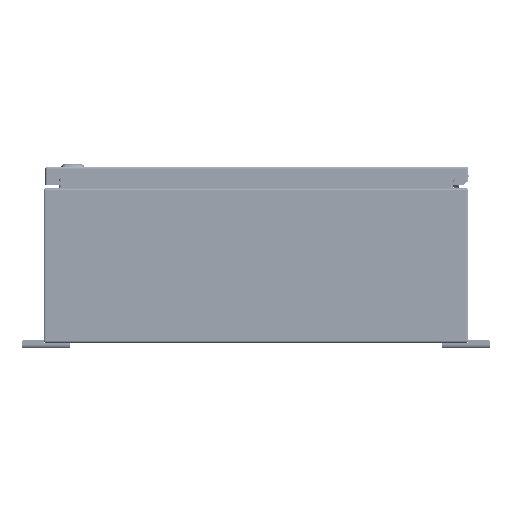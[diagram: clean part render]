
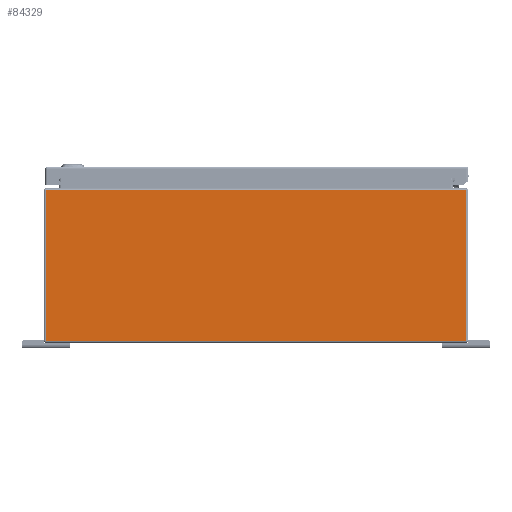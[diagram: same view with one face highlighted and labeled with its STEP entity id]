
A CAD part, left-side view. The second image highlights one B-rep face of the part: STEP entity #84329.
In plain terms, the highlighted planar face has unit normal (-1, 0, 0).
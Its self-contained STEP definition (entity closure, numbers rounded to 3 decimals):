
#5095=PLANE('',#90495);
#7199=LINE('',#120067,#13528);
#7200=LINE('',#120071,#13529);
#7201=LINE('',#120073,#13530);
#7202=LINE('',#120075,#13531);
#7203=LINE('',#120077,#13532);
#7204=LINE('',#120078,#13533);
#13528=VECTOR('',#98344,0.394);
#13529=VECTOR('',#98349,0.394);
#13530=VECTOR('',#98350,0.394);
#13531=VECTOR('',#98351,0.394);
#13532=VECTOR('',#98352,0.394);
#13533=VECTOR('',#98353,0.394);
#21188=FACE_OUTER_BOUND('',#26293,.T.);
#26293=EDGE_LOOP('',(#57042,#57043,#57044,#57045,#57046,#57047));
#35332=VERTEX_POINT('',#120051);
#35338=VERTEX_POINT('',#120066);
#35339=VERTEX_POINT('',#120070);
#35340=VERTEX_POINT('',#120072);
#35341=VERTEX_POINT('',#120074);
#35342=VERTEX_POINT('',#120076);
#43763=EDGE_CURVE('',#35332,#35338,#7199,.T.);
#43765=EDGE_CURVE('',#35339,#35332,#7200,.T.);
#43766=EDGE_CURVE('',#35339,#35340,#7201,.T.);
#43767=EDGE_CURVE('',#35341,#35340,#7202,.T.);
#43768=EDGE_CURVE('',#35342,#35341,#7203,.T.);
#43769=EDGE_CURVE('',#35342,#35338,#7204,.T.);
#57042=ORIENTED_EDGE('',*,*,#43765,.F.);
#57043=ORIENTED_EDGE('',*,*,#43766,.T.);
#57044=ORIENTED_EDGE('',*,*,#43767,.F.);
#57045=ORIENTED_EDGE('',*,*,#43768,.F.);
#57046=ORIENTED_EDGE('',*,*,#43769,.T.);
#57047=ORIENTED_EDGE('',*,*,#43763,.F.);
#84329=ADVANCED_FACE('',(#21188),#5095,.F.);
#90495=AXIS2_PLACEMENT_3D('',#120069,#98347,#98348);
#98344=DIRECTION('',(0.,0.,-1.));
#98347=DIRECTION('center_axis',(1.,0.,0.));
#98348=DIRECTION('ref_axis',(0.,0.,-1.));
#98349=DIRECTION('',(0.,-1.,0.));
#98350=DIRECTION('',(0.,1.,0.));
#98351=DIRECTION('',(0.,-1.,0.));
#98352=DIRECTION('',(0.,0.,1.));
#98353=DIRECTION('',(0.,-1.,0.));
#120051=CARTESIAN_POINT('',(-36.,-10.901,7.901));
#120066=CARTESIAN_POINT('',(-36.,-10.901,0.099));
#120067=CARTESIAN_POINT('',(-36.,-10.901,4.));
#120069=CARTESIAN_POINT('Origin',(-36.,0.,4.));
#120070=CARTESIAN_POINT('',(-36.,-10.126,7.901));
#120071=CARTESIAN_POINT('',(-36.,-5.475,7.901));
#120072=CARTESIAN_POINT('',(-36.,10.126,7.901));
#120073=CARTESIAN_POINT('',(-36.,5.455,7.901));
#120074=CARTESIAN_POINT('',(-36.,10.901,7.901));
#120075=CARTESIAN_POINT('',(-36.,-5.475,7.901));
#120076=CARTESIAN_POINT('',(-36.,10.901,0.099));
#120077=CARTESIAN_POINT('',(-36.,10.901,4.));
#120078=CARTESIAN_POINT('',(-36.,5.5,0.099));
